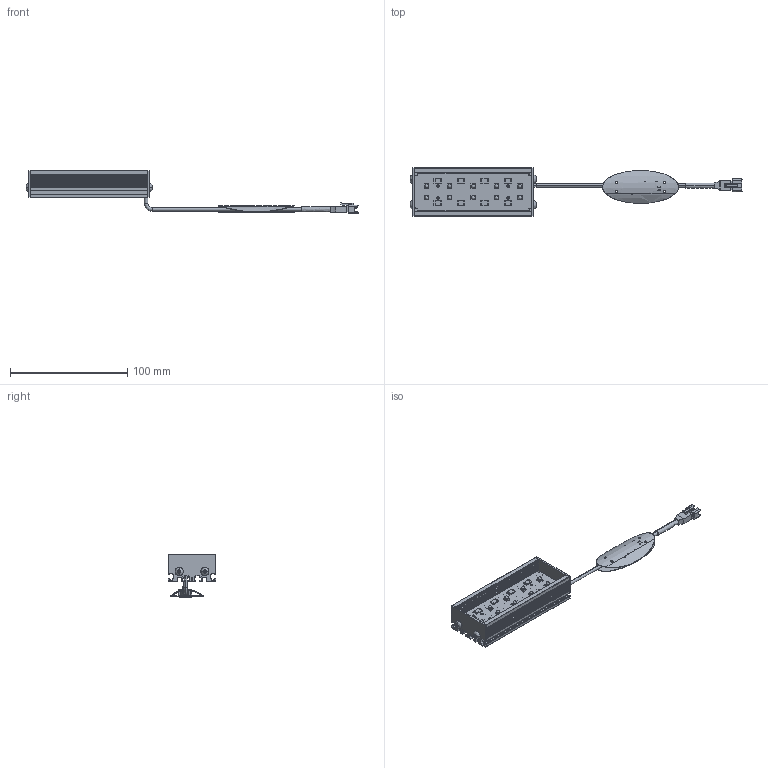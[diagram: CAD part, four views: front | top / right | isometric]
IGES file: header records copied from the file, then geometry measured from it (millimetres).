
Start section: 3D InterOp IGES (v. 2019 1.0.2), Spatial Corp. Copyright (c) 1999-2017.
Global section: file name: VBA-10030UV365_DRAWING_3D.iges; native system: Spatial Corp.; preprocessor: 3D InterOp ACIS/IGES; author: Noname; organization: Noname; date: 20240814.134640; units: millimetre
Bounding box: 283.74 x 41 x 36.64 mm (x, y, z)
Surface area: 52008.1 mm2 (no closed solid volume)
Topology: 0 solids, 0 shells, 2093 faces, 11504 edges, 11456 vertices
Faces by surface type: extrusion 1361, revolution 381, bspline 351
